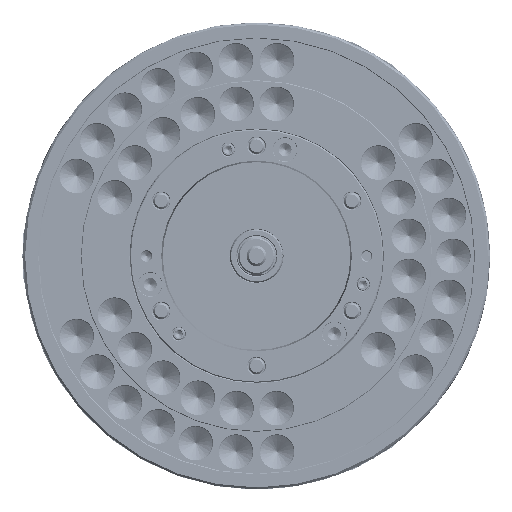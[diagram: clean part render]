
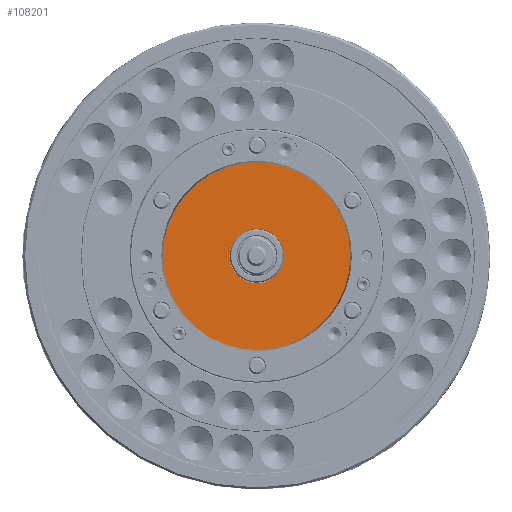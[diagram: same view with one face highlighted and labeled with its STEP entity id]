
A CAD part, left-side view. The second image highlights one B-rep face of the part: STEP entity #108201.
In plain terms, the highlighted planar face has unit normal (-1, 0, 0).
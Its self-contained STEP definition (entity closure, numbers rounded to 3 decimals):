
#12564 = ORIENTED_EDGE ( 'NONE', *, *, #25223, .F. ) ;
#13501 = CARTESIAN_POINT ( 'NONE',  ( -145., 0., 0. ) ) ;
#20610 = PLANE ( 'NONE',  #207182 ) ;
#22690 = CIRCLE ( 'NONE', #219711, 40.6 ) ;
#25223 = EDGE_CURVE ( 'NONE', #132615, #198954, #174558, .T. ) ;
#25523 = CARTESIAN_POINT ( 'NONE',  ( -145., 0., 0. ) ) ;
#25683 = CIRCLE ( 'NONE', #99469, 140.7 ) ;
#47975 = EDGE_CURVE ( 'NONE', #280590, #136006, #25683, .T. ) ;
#53769 = EDGE_CURVE ( 'NONE', #198954, #132615, #22690, .T. ) ;
#65300 = CARTESIAN_POINT ( 'NONE',  ( -145., 0., -40.6 ) ) ;
#68355 = DIRECTION ( 'NONE',  ( 0., 0., -1. ) ) ;
#74794 = ORIENTED_EDGE ( 'NONE', *, *, #53769, .F. ) ;
#75471 = DIRECTION ( 'NONE',  ( 0., 0., 1. ) ) ;
#80974 = AXIS2_PLACEMENT_3D ( 'NONE', #25523, #261448, #119579 ) ;
#91641 = CARTESIAN_POINT ( 'NONE',  ( -145., 0., 140.7 ) ) ;
#99469 = AXIS2_PLACEMENT_3D ( 'NONE', #240433, #286765, #75471 ) ;
#108201 = ADVANCED_FACE ( 'NONE', ( #272092, #253468 ), #20610, .F. ) ;
#116200 = EDGE_CURVE ( 'NONE', #136006, #280590, #218766, .T. ) ;
#119579 = DIRECTION ( 'NONE',  ( 0., 0., 1. ) ) ;
#120769 = EDGE_LOOP ( 'NONE', ( #74794, #12564 ) ) ;
#130653 = DIRECTION ( 'NONE',  ( -1., 0., 0. ) ) ;
#132615 = VERTEX_POINT ( 'NONE', #65300 ) ;
#133701 = DIRECTION ( 'NONE',  ( 0., 0., 1. ) ) ;
#136006 = VERTEX_POINT ( 'NONE', #182546 ) ;
#154152 = CARTESIAN_POINT ( 'NONE',  ( -145., 0., 0. ) ) ;
#156763 = CARTESIAN_POINT ( 'NONE',  ( -145., 0., 40.6 ) ) ;
#162461 = DIRECTION ( 'NONE',  ( 1., 0., 0. ) ) ;
#174558 = CIRCLE ( 'NONE', #253316, 40.6 ) ;
#182546 = CARTESIAN_POINT ( 'NONE',  ( -145., 0., -140.7 ) ) ;
#198954 = VERTEX_POINT ( 'NONE', #156763 ) ;
#207182 = AXIS2_PLACEMENT_3D ( 'NONE', #230261, #162461, #68355 ) ;
#210254 = EDGE_LOOP ( 'NONE', ( #259065, #243307 ) ) ;
#218766 = CIRCLE ( 'NONE', #80974, 140.7 ) ;
#219711 = AXIS2_PLACEMENT_3D ( 'NONE', #13501, #130653, #133701 ) ;
#230261 = CARTESIAN_POINT ( 'NONE',  ( -145., 140.7, 0. ) ) ;
#240433 = CARTESIAN_POINT ( 'NONE',  ( -145., 0., 0. ) ) ;
#243307 = ORIENTED_EDGE ( 'NONE', *, *, #116200, .T. ) ;
#253316 = AXIS2_PLACEMENT_3D ( 'NONE', #154152, #297501, #295980 ) ;
#253468 = FACE_OUTER_BOUND ( 'NONE', #210254, .T. ) ;
#259065 = ORIENTED_EDGE ( 'NONE', *, *, #47975, .T. ) ;
#261448 = DIRECTION ( 'NONE',  ( -1., 0., 0. ) ) ;
#272092 = FACE_BOUND ( 'NONE', #120769, .T. ) ;
#280590 = VERTEX_POINT ( 'NONE', #91641 ) ;
#286765 = DIRECTION ( 'NONE',  ( -1., 0., 0. ) ) ;
#295980 = DIRECTION ( 'NONE',  ( 0., 0., 1. ) ) ;
#297501 = DIRECTION ( 'NONE',  ( -1., 0., 0. ) ) ;
